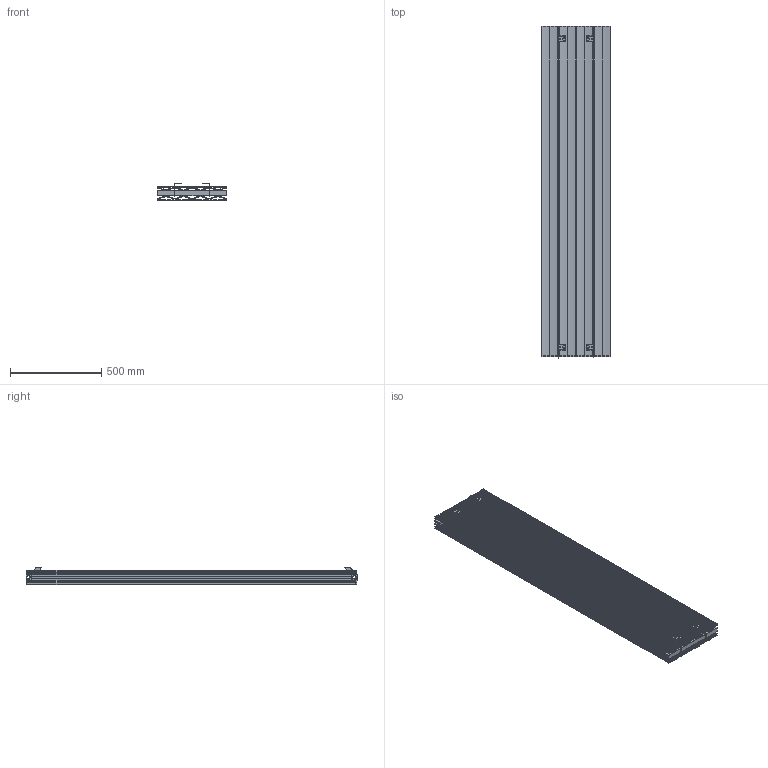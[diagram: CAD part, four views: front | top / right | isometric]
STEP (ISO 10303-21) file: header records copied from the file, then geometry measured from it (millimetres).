
FILE_DESCRIPTION (( 'STEP AP214' ), '1' );
FILE_NAME ('MOSCOW D.STEP', '2020-07-02T11:28:41', ( 'termosan' ), ( '' ), 'SwSTEP 2.0', 'SolidWorks 2009', '' );
FILE_SCHEMA (( 'AUTOMOTIVE_DESIGN' ));
Length unit declared in the file: millimetre
Products named in the file (8): MOSCOW REV; KARE KOL.-375; DOUBLE ASKI SAÐ ALT; DOUBLE ASKI SAÐ ÜST; DOUBLE ASKI SOL ALT; DOUBLE ASKI SOL 郿T; MOSCOW KAPAK REV; MOSCOW D
Assembly tree (18 placements, depth 2):
  MOSCOW D
    MOSCOW KAPAK REV  x8
    KARE KOL.-375  x2
    DOUBLE ASKI SOL ALT
    MOSCOW REV  x4
    DOUBLE ASKI SAÐ ÜST
    DOUBLE ASKI SOL 郿T
    DOUBLE ASKI SAÐ ALT
Bounding box: 375 x 1817 x 96.75 mm (x, y, z)
Volume: 5682835.3 mm3; surface area: 7168814.9 mm2
Topology: 42 solids, 42 shells, 3352 faces, 9588 edges, 6232 vertices
Faces by surface type: cylinder 2104, plane 1152, sphere 64, torus 32
Entity records: 28079 total; most frequent: CARTESIAN_POINT 5237, DIRECTION 4968, ORIENTED_EDGE 4736, EDGE_CURVE 2368, AXIS2_PLACEMENT_3D 1815, VERTEX_POINT 1564, LINE 1338, VECTOR 1338
